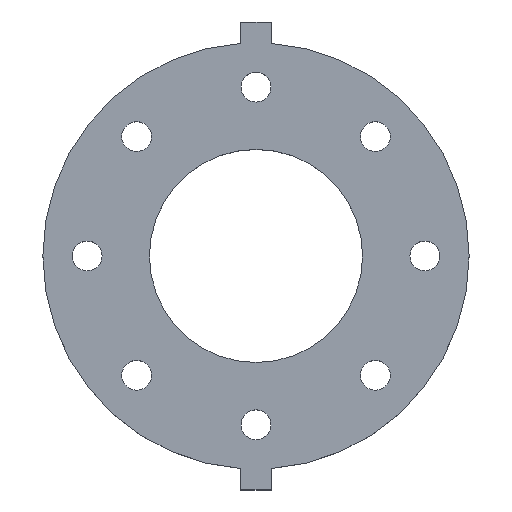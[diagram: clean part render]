
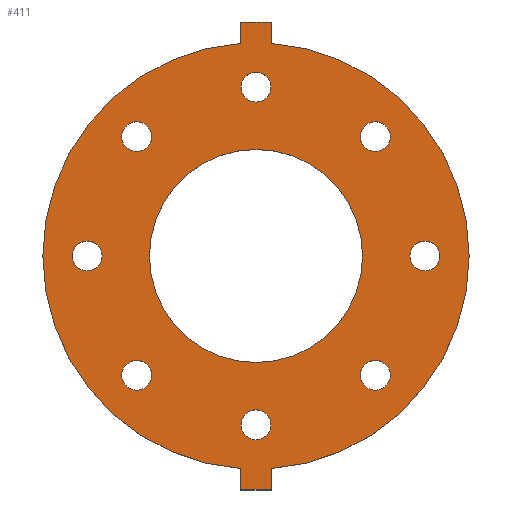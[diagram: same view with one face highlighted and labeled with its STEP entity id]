
A CAD part, top view. The second image highlights one B-rep face of the part: STEP entity #411.
In plain terms, the highlighted planar face has unit normal (0, 0, 1).
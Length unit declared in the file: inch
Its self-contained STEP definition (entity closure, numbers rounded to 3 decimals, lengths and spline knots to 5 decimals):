
#14=FACE_BOUND('',#77,.T.);
#15=FACE_BOUND('',#78,.T.);
#16=FACE_BOUND('',#79,.T.);
#17=FACE_BOUND('',#80,.T.);
#18=FACE_BOUND('',#81,.T.);
#19=FACE_BOUND('',#82,.T.);
#20=FACE_BOUND('',#83,.T.);
#21=FACE_BOUND('',#84,.T.);
#22=FACE_BOUND('',#85,.T.);
#38=PLANE('',#472);
#57=FACE_OUTER_BOUND('',#76,.T.);
#76=EDGE_LOOP('',(#329,#330,#331,#332,#333,#334,#335,#336));
#77=EDGE_LOOP('',(#337));
#78=EDGE_LOOP('',(#338));
#79=EDGE_LOOP('',(#339));
#80=EDGE_LOOP('',(#340));
#81=EDGE_LOOP('',(#341));
#82=EDGE_LOOP('',(#342));
#83=EDGE_LOOP('',(#343));
#84=EDGE_LOOP('',(#344));
#85=EDGE_LOOP('',(#345));
#111=LINE('',#665,#140);
#113=LINE('',#670,#142);
#116=LINE('',#674,#145);
#119=LINE('',#682,#148);
#122=LINE('',#686,#151);
#124=LINE('',#689,#153);
#140=VECTOR('',#559,0.3937);
#142=VECTOR('',#563,0.3937);
#145=VECTOR('',#568,0.3937);
#148=VECTOR('',#573,0.3937);
#151=VECTOR('',#578,0.3937);
#153=VECTOR('',#582,0.3937);
#154=CIRCLE('',#434,0.315);
#156=CIRCLE('',#437,0.315);
#158=CIRCLE('',#440,0.315);
#160=CIRCLE('',#443,0.315);
#162=CIRCLE('',#446,0.315);
#164=CIRCLE('',#449,0.315);
#166=CIRCLE('',#452,0.315);
#168=CIRCLE('',#455,0.315);
#171=CIRCLE('',#459,2.25);
#173=CIRCLE('',#462,4.5);
#174=CIRCLE('',#464,4.5);
#176=VERTEX_POINT('',#589);
#178=VERTEX_POINT('',#595);
#180=VERTEX_POINT('',#601);
#182=VERTEX_POINT('',#607);
#184=VERTEX_POINT('',#613);
#186=VERTEX_POINT('',#619);
#188=VERTEX_POINT('',#625);
#190=VERTEX_POINT('',#631);
#193=VERTEX_POINT('',#639);
#195=VERTEX_POINT('',#644);
#197=VERTEX_POINT('',#648);
#199=VERTEX_POINT('',#653);
#200=VERTEX_POINT('',#655);
#203=VERTEX_POINT('',#663);
#205=VERTEX_POINT('',#669);
#208=VERTEX_POINT('',#679);
#209=VERTEX_POINT('',#681);
#210=EDGE_CURVE('',#176,#176,#154,.T.);
#213=EDGE_CURVE('',#178,#178,#156,.T.);
#216=EDGE_CURVE('',#180,#180,#158,.T.);
#219=EDGE_CURVE('',#182,#182,#160,.T.);
#222=EDGE_CURVE('',#184,#184,#162,.T.);
#225=EDGE_CURVE('',#186,#186,#164,.T.);
#228=EDGE_CURVE('',#188,#188,#166,.T.);
#231=EDGE_CURVE('',#190,#190,#168,.T.);
#236=EDGE_CURVE('',#193,#193,#171,.T.);
#240=EDGE_CURVE('',#195,#197,#173,.T.);
#242=EDGE_CURVE('',#200,#199,#174,.T.);
#247=EDGE_CURVE('',#197,#203,#111,.T.);
#249=EDGE_CURVE('',#205,#200,#113,.T.);
#252=EDGE_CURVE('',#203,#205,#116,.T.);
#255=EDGE_CURVE('',#209,#208,#119,.T.);
#258=EDGE_CURVE('',#199,#209,#122,.T.);
#260=EDGE_CURVE('',#208,#195,#124,.T.);
#329=ORIENTED_EDGE('',*,*,#260,.T.);
#330=ORIENTED_EDGE('',*,*,#240,.T.);
#331=ORIENTED_EDGE('',*,*,#247,.T.);
#332=ORIENTED_EDGE('',*,*,#252,.T.);
#333=ORIENTED_EDGE('',*,*,#249,.T.);
#334=ORIENTED_EDGE('',*,*,#242,.T.);
#335=ORIENTED_EDGE('',*,*,#258,.T.);
#336=ORIENTED_EDGE('',*,*,#255,.T.);
#337=ORIENTED_EDGE('',*,*,#210,.T.);
#338=ORIENTED_EDGE('',*,*,#213,.T.);
#339=ORIENTED_EDGE('',*,*,#216,.T.);
#340=ORIENTED_EDGE('',*,*,#219,.T.);
#341=ORIENTED_EDGE('',*,*,#222,.T.);
#342=ORIENTED_EDGE('',*,*,#225,.T.);
#343=ORIENTED_EDGE('',*,*,#228,.T.);
#344=ORIENTED_EDGE('',*,*,#231,.T.);
#345=ORIENTED_EDGE('',*,*,#236,.T.);
#411=ADVANCED_FACE('',(#57,#14,#15,#16,#17,#18,#19,#20,#21,#22),#38,.T.);
#434=AXIS2_PLACEMENT_3D('',#590,#478,#479);
#437=AXIS2_PLACEMENT_3D('',#596,#485,#486);
#440=AXIS2_PLACEMENT_3D('',#602,#492,#493);
#443=AXIS2_PLACEMENT_3D('',#608,#499,#500);
#446=AXIS2_PLACEMENT_3D('',#614,#506,#507);
#449=AXIS2_PLACEMENT_3D('',#620,#513,#514);
#452=AXIS2_PLACEMENT_3D('',#626,#520,#521);
#455=AXIS2_PLACEMENT_3D('',#632,#527,#528);
#459=AXIS2_PLACEMENT_3D('',#641,#537,#538);
#462=AXIS2_PLACEMENT_3D('',#650,#545,#546);
#464=AXIS2_PLACEMENT_3D('',#656,#550,#551);
#472=AXIS2_PLACEMENT_3D('',#690,#583,#584);
#478=DIRECTION('center_axis',(0.,0.,-1.));
#479=DIRECTION('ref_axis',(-0.707,-0.707,0.));
#485=DIRECTION('center_axis',(0.,0.,-1.));
#486=DIRECTION('ref_axis',(-1.,0.,0.));
#492=DIRECTION('center_axis',(0.,0.,-1.));
#493=DIRECTION('ref_axis',(-0.707,0.707,0.));
#499=DIRECTION('center_axis',(0.,0.,-1.));
#500=DIRECTION('ref_axis',(0.,1.,0.));
#506=DIRECTION('center_axis',(0.,0.,-1.));
#507=DIRECTION('ref_axis',(0.707,0.707,0.));
#513=DIRECTION('center_axis',(0.,0.,-1.));
#514=DIRECTION('ref_axis',(1.,0.,0.));
#520=DIRECTION('center_axis',(0.,0.,-1.));
#521=DIRECTION('ref_axis',(0.707,-0.707,0.));
#527=DIRECTION('center_axis',(0.,0.,-1.));
#528=DIRECTION('ref_axis',(0.,-1.,0.));
#537=DIRECTION('center_axis',(0.,0.,-1.));
#538=DIRECTION('ref_axis',(0.,-1.,0.));
#545=DIRECTION('center_axis',(0.,0.,1.));
#546=DIRECTION('ref_axis',(0.,1.,0.));
#550=DIRECTION('center_axis',(0.,0.,1.));
#551=DIRECTION('ref_axis',(0.,1.,0.));
#559=DIRECTION('',(0.,-1.,0.));
#563=DIRECTION('',(0.,1.,0.));
#568=DIRECTION('',(1.,0.,0.));
#573=DIRECTION('',(-1.,0.,0.));
#578=DIRECTION('',(0.,1.,0.));
#582=DIRECTION('',(0.,-1.,0.));
#583=DIRECTION('center_axis',(0.,0.,1.));
#584=DIRECTION('ref_axis',(0.,1.,0.));
#589=CARTESIAN_POINT('',(-2.2981,2.74357,1.));
#590=CARTESIAN_POINT('Origin',(-2.52084,2.52084,1.));
#595=CARTESIAN_POINT('',(0.315,3.565,1.));
#596=CARTESIAN_POINT('Origin',(0.,3.565,1.));
#601=CARTESIAN_POINT('',(2.74357,2.2981,1.));
#602=CARTESIAN_POINT('Origin',(2.52084,2.52084,1.));
#607=CARTESIAN_POINT('',(3.565,-0.315,1.));
#608=CARTESIAN_POINT('Origin',(3.565,0.,1.));
#613=CARTESIAN_POINT('',(2.2981,-2.74357,1.));
#614=CARTESIAN_POINT('Origin',(2.52084,-2.52084,1.));
#619=CARTESIAN_POINT('',(-0.315,-3.565,1.));
#620=CARTESIAN_POINT('Origin',(0.,-3.565,1.));
#625=CARTESIAN_POINT('',(-2.74357,-2.2981,1.));
#626=CARTESIAN_POINT('Origin',(-2.52084,-2.52084,1.));
#631=CARTESIAN_POINT('',(-3.565,0.315,1.));
#632=CARTESIAN_POINT('Origin',(-3.565,0.,1.));
#639=CARTESIAN_POINT('',(0.,2.25,1.));
#641=CARTESIAN_POINT('Origin',(0.,0.,1.));
#644=CARTESIAN_POINT('',(-0.32,4.48861,1.));
#648=CARTESIAN_POINT('',(-0.32,-4.48861,1.));
#650=CARTESIAN_POINT('Origin',(0.,0.,1.));
#653=CARTESIAN_POINT('',(0.32,4.48861,1.));
#655=CARTESIAN_POINT('',(0.32,-4.48861,1.));
#656=CARTESIAN_POINT('Origin',(0.,0.,1.));
#663=CARTESIAN_POINT('',(-0.32,-4.94,1.));
#665=CARTESIAN_POINT('',(-0.32,-4.48861,1.));
#669=CARTESIAN_POINT('',(0.32,-4.94,1.));
#670=CARTESIAN_POINT('',(0.32,-4.94,1.));
#674=CARTESIAN_POINT('',(-0.32,-4.94,1.));
#679=CARTESIAN_POINT('',(-0.32,4.94,1.));
#681=CARTESIAN_POINT('',(0.32,4.94,1.));
#682=CARTESIAN_POINT('',(0.32,4.94,1.));
#686=CARTESIAN_POINT('',(0.32,4.48861,1.));
#689=CARTESIAN_POINT('',(-0.32,4.94,1.));
#690=CARTESIAN_POINT('Origin',(0.,4.73391,1.));
